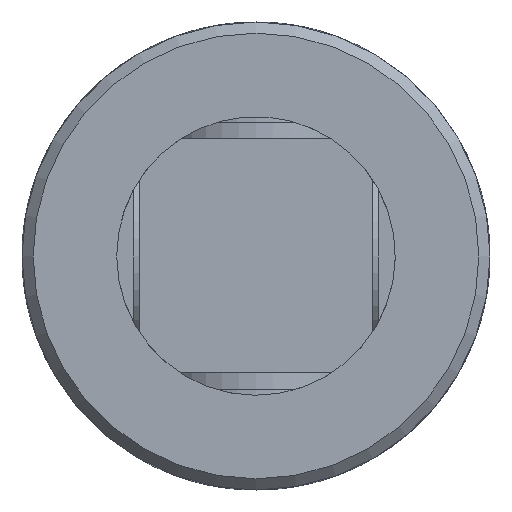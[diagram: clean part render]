
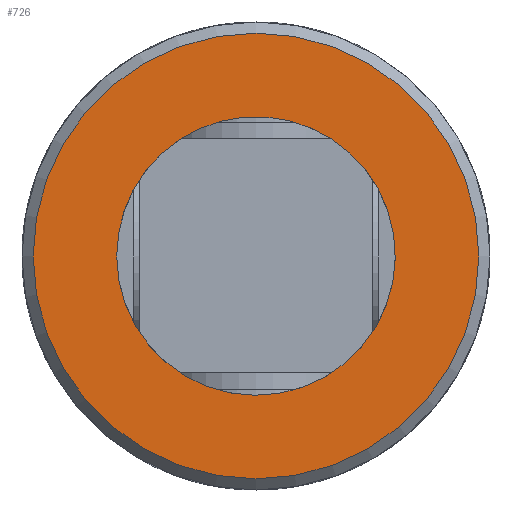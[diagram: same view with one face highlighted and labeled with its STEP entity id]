
A CAD part, front view. The second image highlights one B-rep face of the part: STEP entity #726.
In plain terms, the highlighted planar face has unit normal (0, -1, 0).
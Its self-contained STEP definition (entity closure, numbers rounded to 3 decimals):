
#135=PLANE('',#792);
#161=FACE_BOUND('',#249,.T.);
#186=FACE_OUTER_BOUND('',#248,.T.);
#248=EDGE_LOOP('',(#567));
#249=EDGE_LOOP('',(#568));
#293=CIRCLE('',#785,12.5);
#296=CIRCLE('',#790,20.);
#339=VERTEX_POINT('',#1122);
#343=VERTEX_POINT('',#1165);
#414=EDGE_CURVE('',#339,#339,#293,.T.);
#420=EDGE_CURVE('',#343,#343,#296,.T.);
#567=ORIENTED_EDGE('',*,*,#420,.F.);
#568=ORIENTED_EDGE('',*,*,#414,.T.);
#726=ADVANCED_FACE('',(#186,#161),#135,.F.);
#785=AXIS2_PLACEMENT_3D('',#1123,#916,#917);
#790=AXIS2_PLACEMENT_3D('',#1166,#926,#927);
#792=AXIS2_PLACEMENT_3D('',#1390,#934,#935);
#916=DIRECTION('center_axis',(0.,1.,0.));
#917=DIRECTION('ref_axis',(-1.,0.,0.));
#926=DIRECTION('center_axis',(0.,1.,0.));
#927=DIRECTION('ref_axis',(1.,0.,0.));
#934=DIRECTION('center_axis',(0.,1.,0.));
#935=DIRECTION('ref_axis',(0.,0.,1.));
#1122=CARTESIAN_POINT('',(12.5,-64.,0.));
#1123=CARTESIAN_POINT('Origin',(0.,-64.,0.));
#1165=CARTESIAN_POINT('',(-20.,-64.,0.));
#1166=CARTESIAN_POINT('Origin',(0.,-64.,0.));
#1390=CARTESIAN_POINT('Origin',(0.,-64.,0.));
